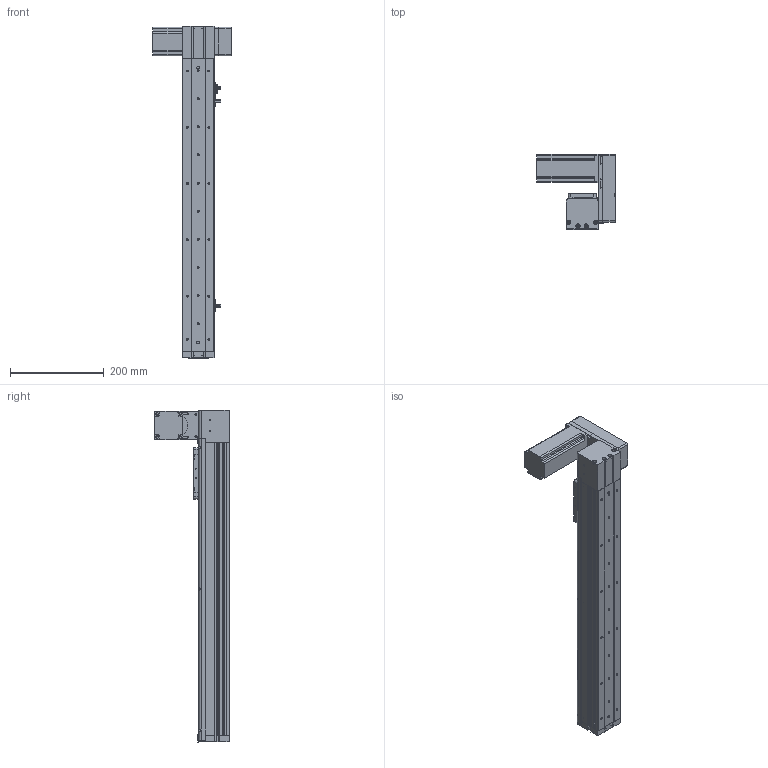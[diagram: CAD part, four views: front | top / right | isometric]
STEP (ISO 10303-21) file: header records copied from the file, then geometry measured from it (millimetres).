
FILE_DESCRIPTION (( 'STEP AP214' ), '1' );
FILE_NAME ('KSD68BS-S450-MLU-CR.STEP', '2019-11-07T07:19:58', ( '微软用户' ), ( '微软中国' ), 'SwSTEP 2.0', 'SolidWorks 2014', '' );
FILE_SCHEMA (( 'AUTOMOTIVE_DESIGN' ));
Length unit declared in the file: millimetre
Products named in the file (14): U倰嫖萇EEㄜSX672; 台达ECMA－C20604AS伺服电机（400W); KSD68BS 450行程底板全封闭; KSD68BS-S450-MLU-CR; KSD68BS 450行程盖板全封闭; 68遵裔啣揤啣1; 68宽单导轨全封闭丝杆传动安装板1防护罩; KSD68BS 450行程侧板全封闭; 68宽单导轨全封闭同步带端板; 68单导轨全封闭同步带电机座左; 68单导轨全封闭同步带安装板; 悵誘欶奻狟殏; 68宽马达安装板连板上折同步带; 感应片68宽全封闭
Assembly tree (17 placements, depth 2):
  KSD68BS-S450-MLU-CR
    KSD68BS 450行程底板全封闭
    台达ECMA－C20604AS伺服电机（400W)
    U倰嫖萇EEㄜSX672  x3
    感应片68宽全封闭
    68宽马达安装板连板上折同步带
    悵誘欶奻狟殏
    68单导轨全封闭同步带安装板
    68单导轨全封闭同步带电机座左
    68宽单导轨全封闭同步带端板
    KSD68BS 450行程侧板全封闭  x2
    68宽单导轨全封闭丝杆传动安装板1防护罩
    68遵裔啣揤啣1  x2
    KSD68BS 450行程盖板全封闭
Bounding box: 167.2 x 159.5 x 708.1 mm (x, y, z)
Volume: 1795933.2 mm3; surface area: 621937.1 mm2
Topology: 18 solids, 18 shells, 1387 faces, 3909 edges, 2514 vertices
Faces by surface type: cylinder 630, plane 621, cone 136
Entity records: 43175 total; most frequent: CARTESIAN_POINT 7293, DIRECTION 6524, ORIENTED_EDGE 6254, EDGE_CURVE 3127, AXIS2_PLACEMENT_3D 2325, VERTEX_POINT 2052, LINE 1874, VECTOR 1874
